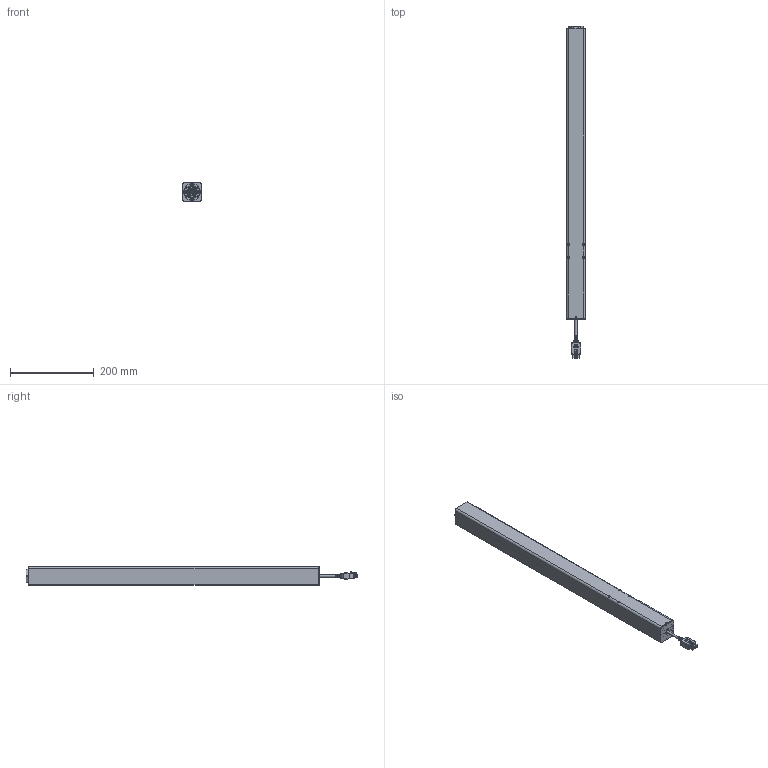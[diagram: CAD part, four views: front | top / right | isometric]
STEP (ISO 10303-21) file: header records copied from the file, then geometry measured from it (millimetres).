
FILE_DESCRIPTION(/* description */ ('Unknown'),/* implementation_level */ '2;1');
FILE_NAME(/* name */ '904.01004_00-Eingefahren',/* time_stamp */ '2022-02-02T10:39:33+01:00',/* author */ ('Unknown'),/* organization */ ('Unknown'),/* preprocessor_version */ 'ST-DEVELOPER v18.1',/* originating_system */ 'Solid Edge',/* authorisation */ 'Unknown');
FILE_SCHEMA (('AP203_CONFIGURATION_CONTROLLED_3D_DESIGN_OF_MECHANICAL_PARTS_AND_ASSEMBLIES_MIM_LF { 1 0 10303 203 3 1 4 }','AUTOMOTIVE_DESIGN {1 0 10303 214 3 1 1}'));
Products named in the file (9): 904.01004; 119.00471; 123.00116; 125.00272; 128.00015; 128.00026; 142.00239; 142.00275; Kabel Molex_kurz
Assembly tree (13 placements, depth 2):
  904.01004
    119.00471
    123.00116
    125.00272
    128.00015
    128.00026  x2
    142.00239  x4
    142.00275  x2
    Kabel Molex_kurz
Bounding box: 45 x 791.5 x 45 mm (x, y, z)
Volume: 701507 mm3; surface area: 355386.6 mm2
Topology: 13 solids, 13 shells, 3177 faces, 8620 edges, 5549 vertices
Faces by surface type: plane 1922, cylinder 768, bspline 206, torus 129, sphere 78, cone 74
Full cylindrical faces by diameter (mm): 1.25 x2, 2.459 x2, 2.6 x2, 3 x2, 4 x12, 4.917 x6, 5 x1, 6.647 x1, 8.376 x2, 28.3 x1, 30 x1, 31.8 x3, 32 x2, 36 x2, 39 x1, 44 x1
Entity records: 64556 total; most frequent: CARTESIAN_POINT 14974, ORIENTED_EDGE 9750, DIRECTION 9116, EDGE_CURVE 4875, LINE 3300, VECTOR 3300, VERTEX_POINT 3188, AXIS2_PLACEMENT_3D 2908
